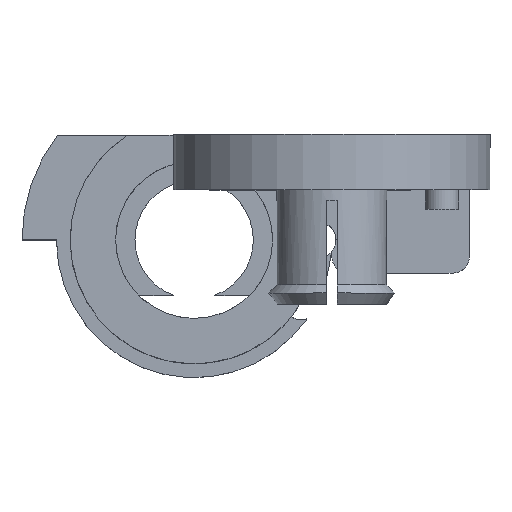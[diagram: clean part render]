
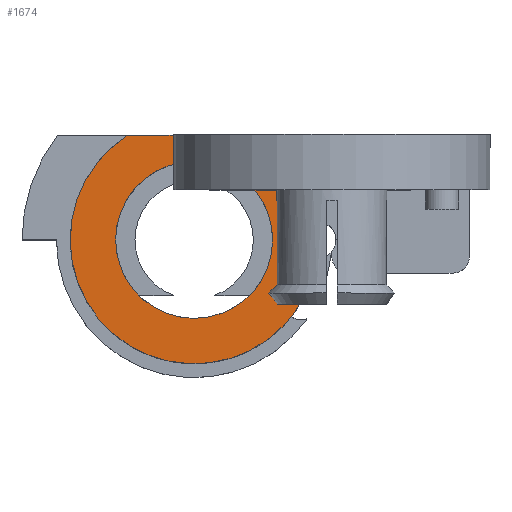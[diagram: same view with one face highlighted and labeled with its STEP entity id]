
A CAD part, top view. The second image highlights one B-rep face of the part: STEP entity #1674.
In plain terms, the highlighted planar face has unit normal (0, 0, 1).
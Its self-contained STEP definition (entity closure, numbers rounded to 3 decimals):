
#127 = PLANE('',#128);
#128 = AXIS2_PLACEMENT_3D('',#129,#130,#131);
#129 = CARTESIAN_POINT('',(3.8,3.6,0.3));
#130 = DIRECTION('',(0.,1.,0.));
#131 = DIRECTION('',(1.,0.,0.));
#165 = CYLINDRICAL_SURFACE('',#166,9.);
#166 = AXIS2_PLACEMENT_3D('',#167,#168,#169);
#167 = CARTESIAN_POINT('',(0.,0.,3.5));
#168 = DIRECTION('',(0.,0.,1.));
#169 = DIRECTION('',(1.,0.,-0.));
#283 = VERTEX_POINT('',#284);
#284 = CARTESIAN_POINT('',(4.419,3.6,7.3));
#298 = CYLINDRICAL_SURFACE('',#299,5.7);
#299 = AXIS2_PLACEMENT_3D('',#300,#301,#302);
#300 = CARTESIAN_POINT('',(0.,0.,3.5));
#301 = DIRECTION('',(0.,0.,1.));
#302 = DIRECTION('',(1.,0.,-0.));
#352 = CYLINDRICAL_SURFACE('',#353,1.8);
#353 = AXIS2_PLACEMENT_3D('',#354,#355,#356);
#354 = CARTESIAN_POINT('',(3.8,5.4,0.3));
#355 = DIRECTION('',(0.,0.,-1.));
#356 = DIRECTION('',(-1.,0.,0.));
#545 = VERTEX_POINT('',#546);
#546 = CARTESIAN_POINT('',(8.249,3.6,7.3));
#566 = EDGE_CURVE('',#545,#283,#567,.T.);
#567 = SURFACE_CURVE('',#568,(#572,#579),.PCURVE_S1.);
#568 = LINE('',#569,#570);
#569 = CARTESIAN_POINT('',(1.9,3.6,7.3));
#570 = VECTOR('',#571,1.);
#571 = DIRECTION('',(-1.,0.,0.));
#572 = PCURVE('',#127,#573);
#573 = DEFINITIONAL_REPRESENTATION('',(#574),#578);
#574 = LINE('',#575,#576);
#575 = CARTESIAN_POINT('',(-1.9,-7.));
#576 = VECTOR('',#577,1.);
#577 = DIRECTION('',(-1.,0.));
#578 = ( GEOMETRIC_REPRESENTATION_CONTEXT(2) 
PARAMETRIC_REPRESENTATION_CONTEXT() REPRESENTATION_CONTEXT('2D SPACE',''
  ) );
#579 = PCURVE('',#580,#585);
#580 = PLANE('',#581);
#581 = AXIS2_PLACEMENT_3D('',#582,#583,#584);
#582 = CARTESIAN_POINT('',(0.,0.,7.3));
#583 = DIRECTION('',(0.,0.,1.));
#584 = DIRECTION('',(1.,0.,-0.));
#585 = DEFINITIONAL_REPRESENTATION('',(#586),#589);
#586 = B_SPLINE_CURVE_WITH_KNOTS('',1,(#587,#588),.UNSPECIFIED.,.F.,.F.,
  (2,2),(-7.1,-1.9),.PIECEWISE_BEZIER_KNOTS.);
#587 = CARTESIAN_POINT('',(9.,3.6));
#588 = CARTESIAN_POINT('',(3.8,3.6));
#589 = ( GEOMETRIC_REPRESENTATION_CONTEXT(2) 
PARAMETRIC_REPRESENTATION_CONTEXT() REPRESENTATION_CONTEXT('2D SPACE',''
  ) );
#902 = PLANE('',#903);
#903 = AXIS2_PLACEMENT_3D('',#904,#905,#906);
#904 = CARTESIAN_POINT('',(-30.,7.6,-1.));
#905 = DIRECTION('',(-0.,1.,0.));
#906 = DIRECTION('',(0.,0.,1.));
#1061 = EDGE_CURVE('',#545,#1062,#1064,.T.);
#1062 = VERTEX_POINT('',#1063);
#1063 = CARTESIAN_POINT('',(-4.821,7.6,7.3));
#1064 = SURFACE_CURVE('',#1065,(#1070,#1077),.PCURVE_S1.);
#1065 = CIRCLE('',#1066,9.);
#1066 = AXIS2_PLACEMENT_3D('',#1067,#1068,#1069);
#1067 = CARTESIAN_POINT('',(0.,0.,7.3));
#1068 = DIRECTION('',(0.,0.,-1.));
#1069 = DIRECTION('',(0.536,0.844,0.));
#1070 = PCURVE('',#165,#1071);
#1071 = DEFINITIONAL_REPRESENTATION('',(#1072),#1076);
#1072 = LINE('',#1073,#1074);
#1073 = CARTESIAN_POINT('',(7.289,3.8));
#1074 = VECTOR('',#1075,1.);
#1075 = DIRECTION('',(-1.,-0.));
#1076 = ( GEOMETRIC_REPRESENTATION_CONTEXT(2) 
PARAMETRIC_REPRESENTATION_CONTEXT() REPRESENTATION_CONTEXT('2D SPACE',''
  ) );
#1077 = PCURVE('',#580,#1078);
#1078 = DEFINITIONAL_REPRESENTATION('',(#1079),#1087);
#1079 = ( BOUNDED_CURVE() B_SPLINE_CURVE(2,(#1080,#1081,#1082,#1083,
#1084,#1085,#1086),.UNSPECIFIED.,.T.,.F.) B_SPLINE_CURVE_WITH_KNOTS((1,2
    ,2,2,2,1),(-2.094,0.,2.094,4.189,
6.283,8.378),.UNSPECIFIED.) CURVE() 
GEOMETRIC_REPRESENTATION_ITEM() RATIONAL_B_SPLINE_CURVE((1.,0.5,1.,0.5,
1.,0.5,1.)) REPRESENTATION_ITEM('') );
#1080 = CARTESIAN_POINT('',(4.821,7.6));
#1081 = CARTESIAN_POINT('',(17.984,-0.75));
#1082 = CARTESIAN_POINT('',(4.171,-7.975));
#1083 = CARTESIAN_POINT('',(-9.642,-15.2));
#1084 = CARTESIAN_POINT('',(-8.992,0.375));
#1085 = CARTESIAN_POINT('',(-8.343,15.95));
#1086 = CARTESIAN_POINT('',(4.821,7.6));
#1087 = ( GEOMETRIC_REPRESENTATION_CONTEXT(2) 
PARAMETRIC_REPRESENTATION_CONTEXT() REPRESENTATION_CONTEXT('2D SPACE',''
  ) );
#1552 = EDGE_CURVE('',#1553,#283,#1555,.T.);
#1553 = VERTEX_POINT('',#1554);
#1554 = CARTESIAN_POINT('',(2.001,5.337,7.3));
#1555 = SURFACE_CURVE('',#1556,(#1561,#1568),.PCURVE_S1.);
#1556 = CIRCLE('',#1557,5.7);
#1557 = AXIS2_PLACEMENT_3D('',#1558,#1559,#1560);
#1558 = CARTESIAN_POINT('',(0.,0.,7.3));
#1559 = DIRECTION('',(0.,-0.,1.));
#1560 = DIRECTION('',(0.351,0.936,0.));
#1561 = PCURVE('',#298,#1562);
#1562 = DEFINITIONAL_REPRESENTATION('',(#1563),#1567);
#1563 = LINE('',#1564,#1565);
#1564 = CARTESIAN_POINT('',(1.212,3.8));
#1565 = VECTOR('',#1566,1.);
#1566 = DIRECTION('',(1.,0.));
#1567 = ( GEOMETRIC_REPRESENTATION_CONTEXT(2) 
PARAMETRIC_REPRESENTATION_CONTEXT() REPRESENTATION_CONTEXT('2D SPACE',''
  ) );
#1568 = PCURVE('',#580,#1569);
#1569 = DEFINITIONAL_REPRESENTATION('',(#1570),#1574);
#1570 = CIRCLE('',#1571,5.7);
#1571 = AXIS2_PLACEMENT_2D('',#1572,#1573);
#1572 = CARTESIAN_POINT('',(0.,0.));
#1573 = DIRECTION('',(0.351,0.936));
#1574 = ( GEOMETRIC_REPRESENTATION_CONTEXT(2) 
PARAMETRIC_REPRESENTATION_CONTEXT() REPRESENTATION_CONTEXT('2D SPACE',''
  ) );
#1674 = ADVANCED_FACE('',(#1675),#580,.T.);
#1675 = FACE_BOUND('',#1676,.T.);
#1676 = EDGE_LOOP('',(#1677,#1712,#1732,#1733,#1734,#1735,#1763));
#1677 = ORIENTED_EDGE('',*,*,#1678,.T.);
#1678 = EDGE_CURVE('',#1679,#1681,#1683,.T.);
#1679 = VERTEX_POINT('',#1680);
#1680 = CARTESIAN_POINT('',(2.,5.8,7.3));
#1681 = VERTEX_POINT('',#1682);
#1682 = CARTESIAN_POINT('',(3.8,7.6,7.3));
#1683 = SURFACE_CURVE('',#1684,(#1689,#1700),.PCURVE_S1.);
#1684 = CIRCLE('',#1685,1.8);
#1685 = AXIS2_PLACEMENT_3D('',#1686,#1687,#1688);
#1686 = CARTESIAN_POINT('',(3.8,5.8,7.3));
#1687 = DIRECTION('',(0.,0.,-1.));
#1688 = DIRECTION('',(-1.,0.,0.));
#1689 = PCURVE('',#580,#1690);
#1690 = DEFINITIONAL_REPRESENTATION('',(#1691),#1699);
#1691 = ( BOUNDED_CURVE() B_SPLINE_CURVE(2,(#1692,#1693,#1694,#1695,
#1696,#1697,#1698),.UNSPECIFIED.,.T.,.F.) B_SPLINE_CURVE_WITH_KNOTS((1,2
    ,2,2,2,1),(-2.094,0.,2.094,4.189,
6.283,8.378),.UNSPECIFIED.) CURVE() 
GEOMETRIC_REPRESENTATION_ITEM() RATIONAL_B_SPLINE_CURVE((1.,0.5,1.,0.5,
1.,0.5,1.)) REPRESENTATION_ITEM('') );
#1692 = CARTESIAN_POINT('',(2.,5.8));
#1693 = CARTESIAN_POINT('',(2.,8.918));
#1694 = CARTESIAN_POINT('',(4.7,7.359));
#1695 = CARTESIAN_POINT('',(7.4,5.8));
#1696 = CARTESIAN_POINT('',(4.7,4.241));
#1697 = CARTESIAN_POINT('',(2.,2.682));
#1698 = CARTESIAN_POINT('',(2.,5.8));
#1699 = ( GEOMETRIC_REPRESENTATION_CONTEXT(2) 
PARAMETRIC_REPRESENTATION_CONTEXT() REPRESENTATION_CONTEXT('2D SPACE',''
  ) );
#1700 = PCURVE('',#1701,#1706);
#1701 = CYLINDRICAL_SURFACE('',#1702,1.8);
#1702 = AXIS2_PLACEMENT_3D('',#1703,#1704,#1705);
#1703 = CARTESIAN_POINT('',(3.8,5.8,0.3));
#1704 = DIRECTION('',(0.,0.,-1.));
#1705 = DIRECTION('',(-1.,0.,0.));
#1706 = DEFINITIONAL_REPRESENTATION('',(#1707),#1711);
#1707 = LINE('',#1708,#1709);
#1708 = CARTESIAN_POINT('',(0.,-7.));
#1709 = VECTOR('',#1710,1.);
#1710 = DIRECTION('',(1.,0.));
#1711 = ( GEOMETRIC_REPRESENTATION_CONTEXT(2) 
PARAMETRIC_REPRESENTATION_CONTEXT() REPRESENTATION_CONTEXT('2D SPACE',''
  ) );
#1712 = ORIENTED_EDGE('',*,*,#1713,.T.);
#1713 = EDGE_CURVE('',#1681,#1062,#1714,.T.);
#1714 = SURFACE_CURVE('',#1715,(#1719,#1725),.PCURVE_S1.);
#1715 = LINE('',#1716,#1717);
#1716 = CARTESIAN_POINT('',(-15.,7.6,7.3));
#1717 = VECTOR('',#1718,1.);
#1718 = DIRECTION('',(-1.,-0.,0.));
#1719 = PCURVE('',#580,#1720);
#1720 = DEFINITIONAL_REPRESENTATION('',(#1721),#1724);
#1721 = B_SPLINE_CURVE_WITH_KNOTS('',1,(#1722,#1723),.UNSPECIFIED.,.F.,
  .F.,(2,2),(-24.,-6.),.PIECEWISE_BEZIER_KNOTS.);
#1722 = CARTESIAN_POINT('',(9.,7.6));
#1723 = CARTESIAN_POINT('',(-9.,7.6));
#1724 = ( GEOMETRIC_REPRESENTATION_CONTEXT(2) 
PARAMETRIC_REPRESENTATION_CONTEXT() REPRESENTATION_CONTEXT('2D SPACE',''
  ) );
#1725 = PCURVE('',#902,#1726);
#1726 = DEFINITIONAL_REPRESENTATION('',(#1727),#1731);
#1727 = LINE('',#1728,#1729);
#1728 = CARTESIAN_POINT('',(8.3,15.));
#1729 = VECTOR('',#1730,1.);
#1730 = DIRECTION('',(0.,-1.));
#1731 = ( GEOMETRIC_REPRESENTATION_CONTEXT(2) 
PARAMETRIC_REPRESENTATION_CONTEXT() REPRESENTATION_CONTEXT('2D SPACE',''
  ) );
#1732 = ORIENTED_EDGE('',*,*,#1061,.F.);
#1733 = ORIENTED_EDGE('',*,*,#566,.T.);
#1734 = ORIENTED_EDGE('',*,*,#1552,.F.);
#1735 = ORIENTED_EDGE('',*,*,#1736,.T.);
#1736 = EDGE_CURVE('',#1553,#1737,#1739,.T.);
#1737 = VERTEX_POINT('',#1738);
#1738 = CARTESIAN_POINT('',(2.,5.4,7.3));
#1739 = SURFACE_CURVE('',#1740,(#1745,#1756),.PCURVE_S1.);
#1740 = CIRCLE('',#1741,1.8);
#1741 = AXIS2_PLACEMENT_3D('',#1742,#1743,#1744);
#1742 = CARTESIAN_POINT('',(3.8,5.4,7.3));
#1743 = DIRECTION('',(0.,0.,-1.));
#1744 = DIRECTION('',(-1.,0.,0.));
#1745 = PCURVE('',#580,#1746);
#1746 = DEFINITIONAL_REPRESENTATION('',(#1747),#1755);
#1747 = ( BOUNDED_CURVE() B_SPLINE_CURVE(2,(#1748,#1749,#1750,#1751,
#1752,#1753,#1754),.UNSPECIFIED.,.T.,.F.) B_SPLINE_CURVE_WITH_KNOTS((1,2
    ,2,2,2,1),(-2.094,0.,2.094,4.189,
6.283,8.378),.UNSPECIFIED.) CURVE() 
GEOMETRIC_REPRESENTATION_ITEM() RATIONAL_B_SPLINE_CURVE((1.,0.5,1.,0.5,
1.,0.5,1.)) REPRESENTATION_ITEM('') );
#1748 = CARTESIAN_POINT('',(2.,5.4));
#1749 = CARTESIAN_POINT('',(2.,8.518));
#1750 = CARTESIAN_POINT('',(4.7,6.959));
#1751 = CARTESIAN_POINT('',(7.4,5.4));
#1752 = CARTESIAN_POINT('',(4.7,3.841));
#1753 = CARTESIAN_POINT('',(2.,2.282));
#1754 = CARTESIAN_POINT('',(2.,5.4));
#1755 = ( GEOMETRIC_REPRESENTATION_CONTEXT(2) 
PARAMETRIC_REPRESENTATION_CONTEXT() REPRESENTATION_CONTEXT('2D SPACE',''
  ) );
#1756 = PCURVE('',#352,#1757);
#1757 = DEFINITIONAL_REPRESENTATION('',(#1758),#1762);
#1758 = LINE('',#1759,#1760);
#1759 = CARTESIAN_POINT('',(0.,-7.));
#1760 = VECTOR('',#1761,1.);
#1761 = DIRECTION('',(1.,0.));
#1762 = ( GEOMETRIC_REPRESENTATION_CONTEXT(2) 
PARAMETRIC_REPRESENTATION_CONTEXT() REPRESENTATION_CONTEXT('2D SPACE',''
  ) );
#1763 = ORIENTED_EDGE('',*,*,#1764,.F.);
#1764 = EDGE_CURVE('',#1679,#1737,#1765,.T.);
#1765 = SURFACE_CURVE('',#1766,(#1770,#1776),.PCURVE_S1.);
#1766 = LINE('',#1767,#1768);
#1767 = CARTESIAN_POINT('',(2.,2.7,7.3));
#1768 = VECTOR('',#1769,1.);
#1769 = DIRECTION('',(0.,-1.,0.));
#1770 = PCURVE('',#580,#1771);
#1771 = DEFINITIONAL_REPRESENTATION('',(#1772),#1775);
#1772 = B_SPLINE_CURVE_WITH_KNOTS('',1,(#1773,#1774),.UNSPECIFIED.,.F.,
  .F.,(2,2),(-3.1,-2.7),.PIECEWISE_BEZIER_KNOTS.);
#1773 = CARTESIAN_POINT('',(2.,5.8));
#1774 = CARTESIAN_POINT('',(2.,5.4));
#1775 = ( GEOMETRIC_REPRESENTATION_CONTEXT(2) 
PARAMETRIC_REPRESENTATION_CONTEXT() REPRESENTATION_CONTEXT('2D SPACE',''
  ) );
#1776 = PCURVE('',#1777,#1782);
#1777 = PLANE('',#1778);
#1778 = AXIS2_PLACEMENT_3D('',#1779,#1780,#1781);
#1779 = CARTESIAN_POINT('',(2.,5.4,0.3));
#1780 = DIRECTION('',(-1.,0.,0.));
#1781 = DIRECTION('',(0.,1.,0.));
#1782 = DEFINITIONAL_REPRESENTATION('',(#1783),#1786);
#1783 = B_SPLINE_CURVE_WITH_KNOTS('',1,(#1784,#1785),.UNSPECIFIED.,.F.,
  .F.,(2,2),(-3.1,-2.7),.PIECEWISE_BEZIER_KNOTS.);
#1784 = CARTESIAN_POINT('',(0.4,-7.));
#1785 = CARTESIAN_POINT('',(0.,-7.));
#1786 = ( GEOMETRIC_REPRESENTATION_CONTEXT(2) 
PARAMETRIC_REPRESENTATION_CONTEXT() REPRESENTATION_CONTEXT('2D SPACE',''
  ) );
